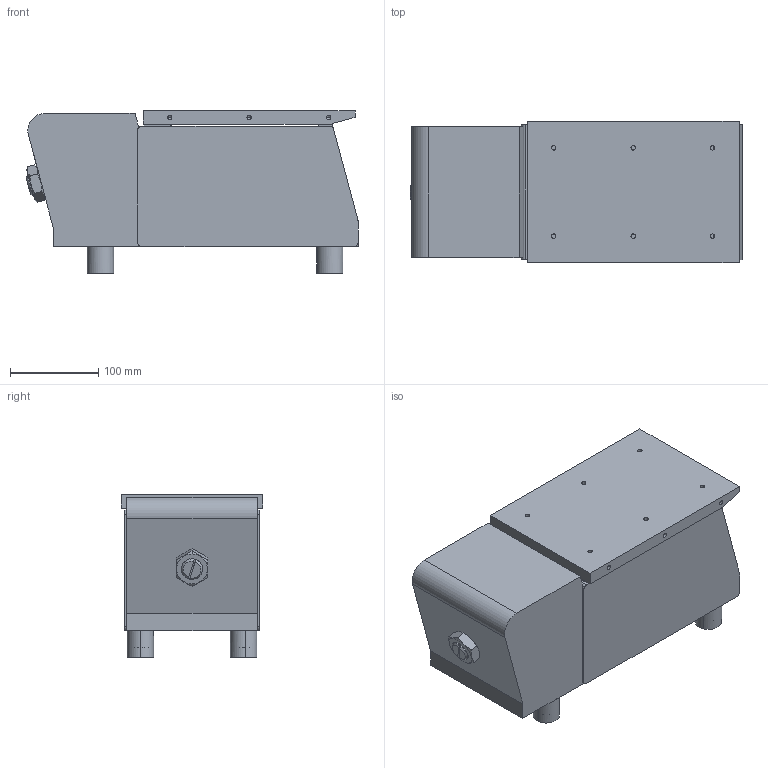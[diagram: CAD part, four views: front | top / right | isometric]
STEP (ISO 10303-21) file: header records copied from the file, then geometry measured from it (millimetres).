
FILE_DESCRIPTION (( 'STEP AP203' ), '1' );
FILE_NAME ('HD-ZE200妗极.STEP', '2026-06-23T02:47:46', ( 'Windows 蚚誧' ), ( '' ), 'SwSTEP 2.0', 'SolidWorks 2024', '' );
FILE_SCHEMA (( 'CONFIG_CONTROL_DESIGN' ));
Length unit declared in the file: millimetre
Products named in the file (1): HD-ZE200实体
Bounding box: 376.31 x 160 x 184 mm (x, y, z)
Volume: 8075365.3 mm3; surface area: 362501.8 mm2
Topology: 9 solids, 9 shells, 327 faces, 822 edges, 528 vertices
Faces by surface type: plane 132, cylinder 112, bspline 57, cone 18, sphere 8
Entity records: 17954 total; most frequent: CARTESIAN_POINT 10399, ORIENTED_EDGE 1620, DIRECTION 1480, EDGE_CURVE 810, AXIS2_PLACEMENT_3D 561, VERTEX_POINT 528, EDGE_LOOP 380, LINE 358
